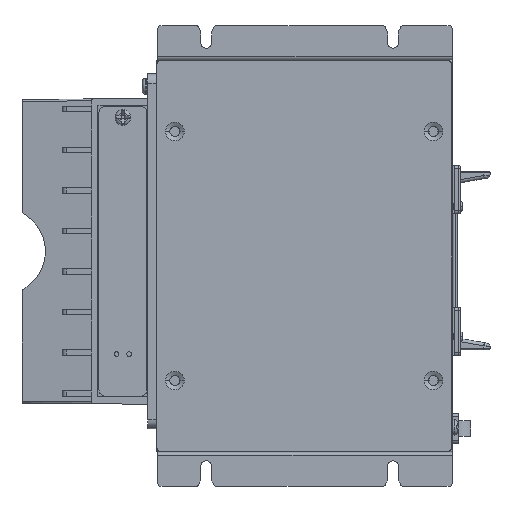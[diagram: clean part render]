
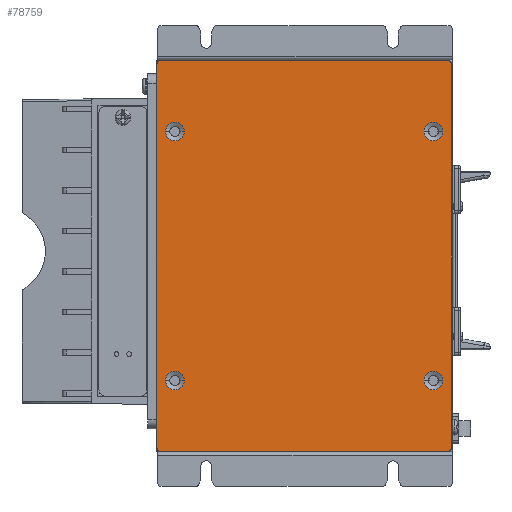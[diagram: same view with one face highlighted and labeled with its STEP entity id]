
A CAD part, front view. The second image highlights one B-rep face of the part: STEP entity #78759.
In plain terms, the highlighted planar face has unit normal (0, -1, 0).
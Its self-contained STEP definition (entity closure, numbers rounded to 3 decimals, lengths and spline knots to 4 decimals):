
#78356=CARTESIAN_POINT('',(2.3759,-2.063,
-2.372));
#78357=DIRECTION('',(0.,-1.,0.));
#78358=DIRECTION('',(0.,0.,-1.));
#78359=AXIS2_PLACEMENT_3D('',#78356,#78357,#78358);
#78361=DIRECTION('',(1.,0.,0.));
#78362=VECTOR('',#78361,3.6417);
#78363=CARTESIAN_POINT('',(-1.2658,-2.063,
-2.4114));
#78364=LINE('',#78363,#78362);
#78365=CARTESIAN_POINT('',(-1.2658,-2.063,
-2.372));
#78366=DIRECTION('',(0.,-1.,0.));
#78367=DIRECTION('',(-1.,0.,0.));
#78368=AXIS2_PLACEMENT_3D('',#78365,#78366,#78367);
#78370=DIRECTION('',(0.,0.,-1.));
#78371=VECTOR('',#78370,4.8622);
#78372=CARTESIAN_POINT('',(-1.3052,-2.063,
2.4902));
#78373=LINE('',#78372,#78371);
#78374=CARTESIAN_POINT('',(-1.2658,-2.063,
2.4902));
#78375=DIRECTION('',(0.,-1.,0.));
#78376=DIRECTION('',(0.,0.,1.));
#78377=AXIS2_PLACEMENT_3D('',#78374,#78375,#78376);
#78379=DIRECTION('',(-1.,0.,0.));
#78380=VECTOR('',#78379,3.6417);
#78381=CARTESIAN_POINT('',(2.3759,-2.063,
2.5295));
#78382=LINE('',#78381,#78380);
#78383=CARTESIAN_POINT('',(2.3759,-2.063,
2.4902));
#78384=DIRECTION('',(0.,-1.,0.));
#78385=DIRECTION('',(1.,0.,0.));
#78386=AXIS2_PLACEMENT_3D('',#78383,#78384,#78385);
#78388=DIRECTION('',(0.,0.,1.));
#78389=VECTOR('',#78388,4.8622);
#78390=CARTESIAN_POINT('',(2.4153,-2.063,
-2.372));
#78391=LINE('',#78390,#78389);
#78392=CARTESIAN_POINT('',(2.1889,-2.063,
-1.5157));
#78393=DIRECTION('',(0.,1.,0.));
#78394=DIRECTION('',(1.,0.,0.));
#78395=AXIS2_PLACEMENT_3D('',#78392,#78393,#78394);
#78397=CARTESIAN_POINT('',(2.1889,-2.063,
-1.5157));
#78398=DIRECTION('',(0.,1.,0.));
#78399=DIRECTION('',(-1.,0.,0.));
#78400=AXIS2_PLACEMENT_3D('',#78397,#78398,#78399);
#78402=CARTESIAN_POINT('',(-1.0788,-2.063,
-1.5157));
#78403=DIRECTION('',(0.,1.,0.));
#78404=DIRECTION('',(-1.,0.,0.));
#78405=AXIS2_PLACEMENT_3D('',#78402,#78403,#78404);
#78407=CARTESIAN_POINT('',(-1.0788,-2.063,
-1.5157));
#78408=DIRECTION('',(0.,1.,0.));
#78409=DIRECTION('',(1.,0.,0.));
#78410=AXIS2_PLACEMENT_3D('',#78407,#78408,#78409);
#78412=CARTESIAN_POINT('',(-1.0788,-2.063,
1.6339));
#78413=DIRECTION('',(0.,1.,0.));
#78414=DIRECTION('',(-1.,0.,0.));
#78415=AXIS2_PLACEMENT_3D('',#78412,#78413,#78414);
#78417=CARTESIAN_POINT('',(-1.0788,-2.063,
1.6339));
#78418=DIRECTION('',(0.,1.,0.));
#78419=DIRECTION('',(1.,0.,0.));
#78420=AXIS2_PLACEMENT_3D('',#78417,#78418,#78419);
#78422=CARTESIAN_POINT('',(2.1889,-2.063,
1.6339));
#78423=DIRECTION('',(0.,1.,0.));
#78424=DIRECTION('',(-1.,0.,0.));
#78425=AXIS2_PLACEMENT_3D('',#78422,#78423,#78424);
#78427=CARTESIAN_POINT('',(2.1889,-2.063,
1.6339));
#78428=DIRECTION('',(0.,1.,0.));
#78429=DIRECTION('',(1.,0.,0.));
#78430=AXIS2_PLACEMENT_3D('',#78427,#78428,#78429);
#78563=CARTESIAN_POINT('',(2.3759,-2.063,
-2.4114));
#78564=VERTEX_POINT('',#78563);
#78565=CARTESIAN_POINT('',(2.4153,-2.063,
-2.372));
#78566=VERTEX_POINT('',#78565);
#78571=CARTESIAN_POINT('',(2.4153,-2.063,
2.4902));
#78572=VERTEX_POINT('',#78571);
#78573=CARTESIAN_POINT('',(2.3759,-2.063,
2.5295));
#78574=VERTEX_POINT('',#78573);
#78579=CARTESIAN_POINT('',(-1.2658,-2.063,
2.5295));
#78580=VERTEX_POINT('',#78579);
#78581=CARTESIAN_POINT('',(-1.3052,-2.063,
2.4902));
#78582=VERTEX_POINT('',#78581);
#78587=CARTESIAN_POINT('',(-1.3052,-2.063,
-2.372));
#78588=VERTEX_POINT('',#78587);
#78589=CARTESIAN_POINT('',(-1.2658,-2.063,
-2.4114));
#78590=VERTEX_POINT('',#78589);
#78591=CARTESIAN_POINT('',(2.3065,-2.063,
-1.5157));
#78592=CARTESIAN_POINT('',(2.0714,-2.063,
-1.5157));
#78593=VERTEX_POINT('',#78591);
#78594=VERTEX_POINT('',#78592);
#78611=CARTESIAN_POINT('',(-1.1963,-2.063,
-1.5157));
#78612=CARTESIAN_POINT('',(-0.9612,-2.063,
-1.5157));
#78613=VERTEX_POINT('',#78611);
#78614=VERTEX_POINT('',#78612);
#78619=CARTESIAN_POINT('',(-1.1963,-2.063,
1.6339));
#78620=CARTESIAN_POINT('',(-0.9612,-2.063,
1.6339));
#78621=VERTEX_POINT('',#78619);
#78622=VERTEX_POINT('',#78620);
#78627=CARTESIAN_POINT('',(2.0714,-2.063,
1.6339));
#78628=CARTESIAN_POINT('',(2.3065,-2.063,
1.6339));
#78629=VERTEX_POINT('',#78627);
#78630=VERTEX_POINT('',#78628);
#78713=CARTESIAN_POINT('',(0.5551,-2.063,
0.0591));
#78714=DIRECTION('',(0.,-1.,0.));
#78715=DIRECTION('',(-1.,0.,0.));
#78716=AXIS2_PLACEMENT_3D('',#78713,#78714,#78715);
#78717=PLANE('',#78716);
#78719=ORIENTED_EDGE('',*,*,#78718,.F.);
#78721=ORIENTED_EDGE('',*,*,#78720,.F.);
#78723=ORIENTED_EDGE('',*,*,#78722,.F.);
#78725=ORIENTED_EDGE('',*,*,#78724,.F.);
#78727=ORIENTED_EDGE('',*,*,#78726,.F.);
#78729=ORIENTED_EDGE('',*,*,#78728,.F.);
#78731=ORIENTED_EDGE('',*,*,#78730,.F.);
#78733=ORIENTED_EDGE('',*,*,#78732,.F.);
#78734=EDGE_LOOP('',(#78719,#78721,#78723,#78725,#78727,#78729,#78731,#78733));
#78735=FACE_OUTER_BOUND('',#78734,.F.);
#78737=ORIENTED_EDGE('',*,*,#78736,.F.);
#78738=ORIENTED_EDGE('',*,*,#78703,.F.);
#78739=EDGE_LOOP('',(#78737,#78738));
#78740=FACE_BOUND('',#78739,.F.);
#78742=ORIENTED_EDGE('',*,*,#78741,.F.);
#78744=ORIENTED_EDGE('',*,*,#78743,.F.);
#78745=EDGE_LOOP('',(#78742,#78744));
#78746=FACE_BOUND('',#78745,.F.);
#78748=ORIENTED_EDGE('',*,*,#78747,.F.);
#78750=ORIENTED_EDGE('',*,*,#78749,.F.);
#78751=EDGE_LOOP('',(#78748,#78750));
#78752=FACE_BOUND('',#78751,.F.);
#78754=ORIENTED_EDGE('',*,*,#78753,.F.);
#78756=ORIENTED_EDGE('',*,*,#78755,.F.);
#78757=EDGE_LOOP('',(#78754,#78756));
#78758=FACE_BOUND('',#78757,.F.);
#78759=ADVANCED_FACE('',(#78735,#78740,#78746,#78752,#78758),#78717,.T.);
#78360=CIRCLE('',#78359,0.0394);
#78369=CIRCLE('',#78368,0.0394);
#78378=CIRCLE('',#78377,0.0394);
#78387=CIRCLE('',#78386,0.0394);
#78396=CIRCLE('',#78395,0.1175);
#78401=CIRCLE('',#78400,0.1175);
#78406=CIRCLE('',#78405,0.1175);
#78411=CIRCLE('',#78410,0.1175);
#78416=CIRCLE('',#78415,0.1175);
#78421=CIRCLE('',#78420,0.1175);
#78426=CIRCLE('',#78425,0.1175);
#78431=CIRCLE('',#78430,0.1175);
#78703=EDGE_CURVE('',#78594,#78593,#78401,.T.);
#78718=EDGE_CURVE('',#78564,#78566,#78360,.T.);
#78720=EDGE_CURVE('',#78590,#78564,#78364,.T.);
#78722=EDGE_CURVE('',#78588,#78590,#78369,.T.);
#78724=EDGE_CURVE('',#78582,#78588,#78373,.T.);
#78726=EDGE_CURVE('',#78580,#78582,#78378,.T.);
#78728=EDGE_CURVE('',#78574,#78580,#78382,.T.);
#78730=EDGE_CURVE('',#78572,#78574,#78387,.T.);
#78732=EDGE_CURVE('',#78566,#78572,#78391,.T.);
#78736=EDGE_CURVE('',#78593,#78594,#78396,.T.);
#78741=EDGE_CURVE('',#78613,#78614,#78406,.T.);
#78743=EDGE_CURVE('',#78614,#78613,#78411,.T.);
#78747=EDGE_CURVE('',#78621,#78622,#78416,.T.);
#78749=EDGE_CURVE('',#78622,#78621,#78421,.T.);
#78753=EDGE_CURVE('',#78629,#78630,#78426,.T.);
#78755=EDGE_CURVE('',#78630,#78629,#78431,.T.);
